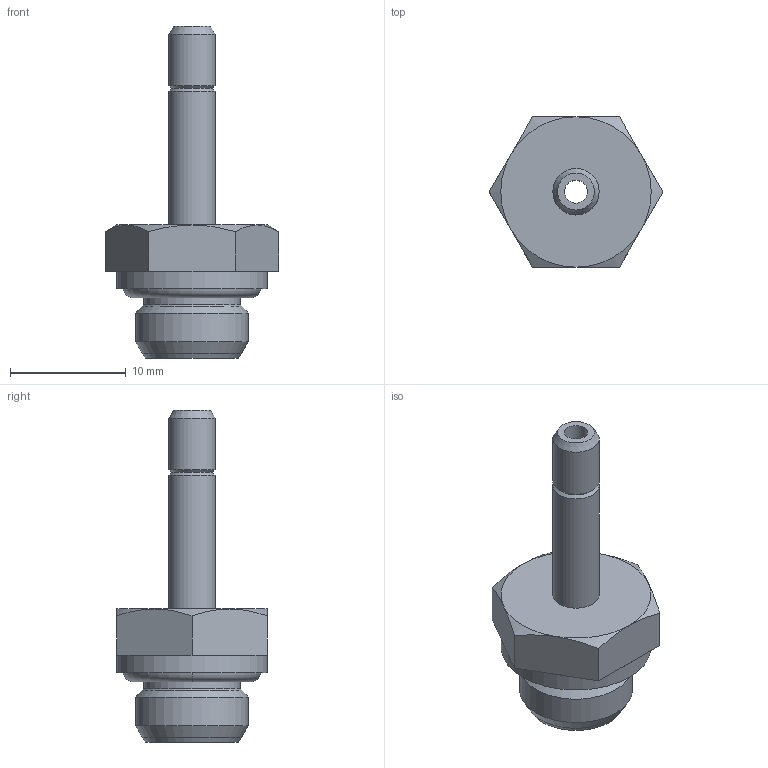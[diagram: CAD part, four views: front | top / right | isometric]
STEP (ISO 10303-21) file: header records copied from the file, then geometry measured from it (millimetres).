
FILE_DESCRIPTION(('Bauteilbeschreibung','HiCAD-Model','HiCAD-STEP-TRANSLATION','Bauteilbeschreibung'),'2;1');
FILE_NAME('B:/ABGLEICH/ZEICHNUNGEN/STEP FÜR INTERNET/STEP/IPSO 06/200602-N_IPSO_06_4_1-8.STP','2012-02-28T15:18:30+00:00',('Konstrukteur'),('Konstrukteur Firma GmbH'),' HiCAD neXt 2008, Step 3.1.1401.2J ','HiCAD neXt 2008','confidential');
FILE_SCHEMA(('AUTOMOTIVE_DESIGN { 1 2 10303 214 0 1 1 1 }'));
Length unit declared in the file: millimetre
Products named in the file (5): A00602_N_IPSO_06_4_1_8; A00602; A006020; G 1_8; OR 7_2X1_9
Assembly tree (4 placements, depth 3):
  A00602_N_IPSO_06_4_1_8
    A00602
    A006020
      G 1_8
    OR 7_2X1_9
Bounding box: 15.01 x 13 x 28.7 mm (x, y, z)
Volume: 1100.1 mm3; surface area: 1636 mm2
Topology: 3 solids, 3 shells, 48 faces, 104 edges, 61 vertices
Faces by surface type: plane 17, cone 16, cylinder 9, torus 6
Full cylindrical faces by diameter (mm): 2 x1, 4 x2, 6 x1, 8.3 x1, 8.566 x2, 9.728 x1, 13 x1
Entity records: 1579 total; most frequent: DIRECTION 220, CARTESIAN_POINT 208, ORIENTED_EDGE 150, AXIS2_PLACEMENT_3D 101, EDGE_CURVE 75, EDGE_LOOP 74, COLOUR_RGB 70, PRESENTATION_STYLE_ASSIGNMENT 70
